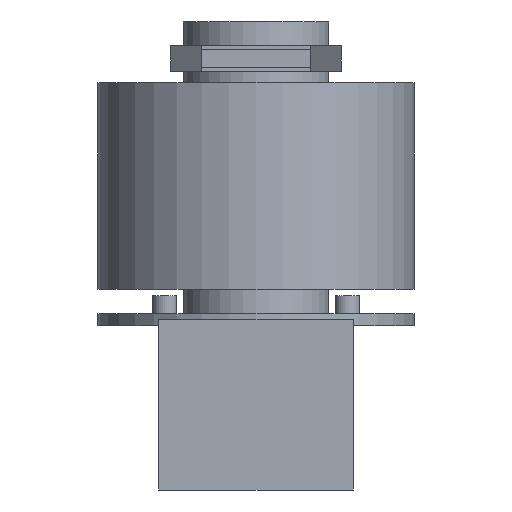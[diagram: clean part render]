
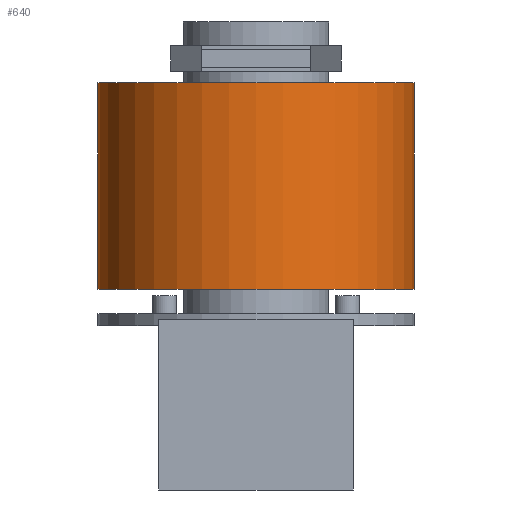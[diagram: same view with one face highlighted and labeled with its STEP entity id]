
A CAD part, left-side view. The second image highlights one B-rep face of the part: STEP entity #640.
In plain terms, the highlighted cylindrical face has radius 26 mm (diameter 52 mm), a full revolution.
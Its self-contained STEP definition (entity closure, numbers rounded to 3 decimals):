
#640 = ADVANCED_FACE('',(#641),#668,.T.);
#641 = FACE_BOUND('',#642,.T.);
#642 = EDGE_LOOP('',(#643,#652,#660,#667));
#643 = ORIENTED_EDGE('',*,*,#644,.F.);
#644 = EDGE_CURVE('',#645,#645,#647,.T.);
#645 = VERTEX_POINT('',#646);
#646 = CARTESIAN_POINT('',(346.,0.,53.));
#647 = CIRCLE('',#648,26.);
#648 = AXIS2_PLACEMENT_3D('',#649,#650,#651);
#649 = CARTESIAN_POINT('',(320.,0.,53.));
#650 = DIRECTION('',(0.,0.,1.));
#651 = DIRECTION('',(1.,0.,-0.));
#652 = ORIENTED_EDGE('',*,*,#653,.F.);
#653 = EDGE_CURVE('',#654,#645,#656,.T.);
#654 = VERTEX_POINT('',#655);
#655 = CARTESIAN_POINT('',(346.,0.,19.));
#656 = LINE('',#657,#658);
#657 = CARTESIAN_POINT('',(346.,0.,19.));
#658 = VECTOR('',#659,1.);
#659 = DIRECTION('',(0.,0.,1.));
#660 = ORIENTED_EDGE('',*,*,#661,.T.);
#661 = EDGE_CURVE('',#654,#654,#662,.T.);
#662 = CIRCLE('',#663,26.);
#663 = AXIS2_PLACEMENT_3D('',#664,#665,#666);
#664 = CARTESIAN_POINT('',(320.,0.,19.));
#665 = DIRECTION('',(0.,0.,1.));
#666 = DIRECTION('',(1.,0.,-0.));
#667 = ORIENTED_EDGE('',*,*,#653,.T.);
#668 = CYLINDRICAL_SURFACE('',#669,26.);
#669 = AXIS2_PLACEMENT_3D('',#670,#671,#672);
#670 = CARTESIAN_POINT('',(320.,0.,19.));
#671 = DIRECTION('',(0.,0.,1.));
#672 = DIRECTION('',(1.,0.,-0.));
